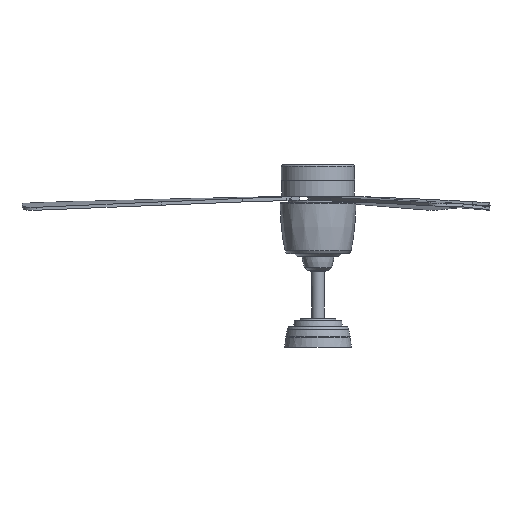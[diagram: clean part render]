
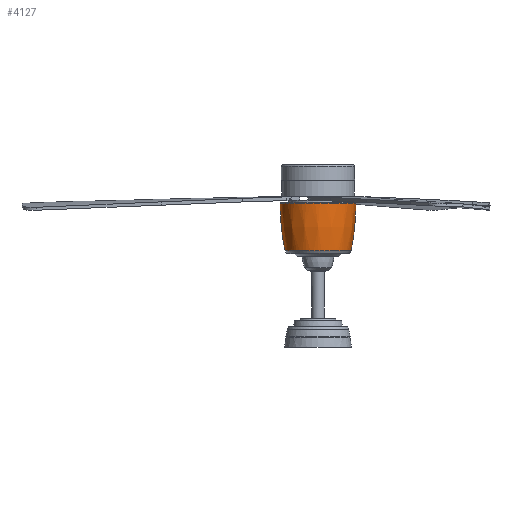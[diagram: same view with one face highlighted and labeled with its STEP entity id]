
A CAD part, left-side view. The second image highlights one B-rep face of the part: STEP entity #4127.
In plain terms, the highlighted free-form (B-spline) face has degree [2, 2] with [3, 5] control points.
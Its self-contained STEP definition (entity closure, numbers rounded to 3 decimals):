
#33=(
BOUNDED_SURFACE()
B_SPLINE_SURFACE(2,2,((#15556,#15557,#15558,#15559,#15560),(#15561,#15562,
#15563,#15564,#15565),(#15566,#15567,#15568,#15569,#15570)),
 .UNSPECIFIED.,.F.,.F.,.F.)
B_SPLINE_SURFACE_WITH_KNOTS((3,3),(3,2,3),(-0.21,0.006),
(-1.571,0.,1.571),.UNSPECIFIED.)
GEOMETRIC_REPRESENTATION_ITEM()
RATIONAL_B_SPLINE_SURFACE(((1.,0.707,1.,0.707,1.),
(0.994,0.703,0.994,0.703,
0.994),(1.,0.707,1.,0.707,1.)))
REPRESENTATION_ITEM('')
SURFACE()
);
#120=CIRCLE('',#4399,465.871);
#121=CIRCLE('',#4400,465.871);
#417=FACE_OUTER_BOUND('',#661,.T.);
#661=EDGE_LOOP('',(#3412,#3413,#3414,#3415));
#1341=B_SPLINE_CURVE_WITH_KNOTS('',3,(#15515,#15516,#15517,#15518,#15519,
#15520,#15521,#15522,#15523,#15524,#15525),.UNSPECIFIED.,.F.,.F.,(4,1,1,
1,1,1,1,1,4),(0.,0.125,0.25,0.375,0.5,0.625,0.75,0.875,1.),
 .UNSPECIFIED.);
#1343=B_SPLINE_CURVE_WITH_KNOTS('',3,(#15571,#15572,#15573,#15574,#15575,
#15576,#15577,#15578,#15579,#15580,#15581),.UNSPECIFIED.,.F.,.F.,(4,1,1,
1,1,1,1,1,4),(0.,0.125,0.25,0.375,0.5,0.625,0.75,0.875,1.),
 .UNSPECIFIED.);
#1774=VERTEX_POINT('',#15397);
#1775=VERTEX_POINT('',#15450);
#1776=VERTEX_POINT('',#15541);
#1777=VERTEX_POINT('',#15543);
#2351=EDGE_CURVE('',#1774,#1775,#1341,.T.);
#2352=EDGE_CURVE('',#1776,#1774,#120,.T.);
#2354=EDGE_CURVE('',#1775,#1777,#121,.T.);
#2355=EDGE_CURVE('',#1776,#1777,#1343,.T.);
#3412=ORIENTED_EDGE('',*,*,#2351,.T.);
#3413=ORIENTED_EDGE('',*,*,#2354,.T.);
#3414=ORIENTED_EDGE('',*,*,#2355,.F.);
#3415=ORIENTED_EDGE('',*,*,#2352,.T.);
#4127=ADVANCED_FACE('',(#417),#33,.F.);
#4399=AXIS2_PLACEMENT_3D('',#15542,#5062,#5063);
#4400=AXIS2_PLACEMENT_3D('',#15555,#5064,#5065);
#5062=DIRECTION('center_axis',(-1.,0.,0.));
#5063=DIRECTION('ref_axis',(0.,-1.,0.));
#5064=DIRECTION('center_axis',(-1.,0.,0.));
#5065=DIRECTION('ref_axis',(0.,1.,0.));
#15397=CARTESIAN_POINT('',(0.,-79.884,303.629));
#15450=CARTESIAN_POINT('',(0.,79.884,303.629));
#15515=CARTESIAN_POINT('Ctrl Pts',(0.,-79.884,
303.629));
#15516=CARTESIAN_POINT('Ctrl Pts',(-10.499,-79.989,
303.629));
#15517=CARTESIAN_POINT('Ctrl Pts',(-31.346,-75.676,
303.629));
#15518=CARTESIAN_POINT('Ctrl Pts',(-57.963,-57.97,
303.629));
#15519=CARTESIAN_POINT('Ctrl Pts',(-75.723,-31.363,
303.629));
#15520=CARTESIAN_POINT('Ctrl Pts',(-81.965,0.,
303.629));
#15521=CARTESIAN_POINT('Ctrl Pts',(-75.723,31.363,303.629));
#15522=CARTESIAN_POINT('Ctrl Pts',(-57.963,57.97,303.629));
#15523=CARTESIAN_POINT('Ctrl Pts',(-31.346,75.676,303.629));
#15524=CARTESIAN_POINT('Ctrl Pts',(-10.499,79.989,303.629));
#15525=CARTESIAN_POINT('Ctrl Pts',(0.,79.884,
303.629));
#15541=CARTESIAN_POINT('',(0.,-69.686,203.8));
#15542=CARTESIAN_POINT('Origin',(0.,385.978,
300.783));
#15543=CARTESIAN_POINT('',(0.,69.686,203.8));
#15555=CARTESIAN_POINT('Origin',(0.,-385.978,
300.783));
#15556=CARTESIAN_POINT('Ctrl Pts',(0.,69.685,
203.795));
#15557=CARTESIAN_POINT('Ctrl Pts',(-69.685,69.685,203.795));
#15558=CARTESIAN_POINT('Ctrl Pts',(-69.685,0.,
203.795));
#15559=CARTESIAN_POINT('Ctrl Pts',(-69.685,-69.685,203.795));
#15560=CARTESIAN_POINT('Ctrl Pts',(0.,-69.685,
203.795));
#15561=CARTESIAN_POINT('Ctrl Pts',(0.,80.192,
253.159));
#15562=CARTESIAN_POINT('Ctrl Pts',(-80.192,80.192,253.159));
#15563=CARTESIAN_POINT('Ctrl Pts',(-80.192,0.,
253.159));
#15564=CARTESIAN_POINT('Ctrl Pts',(-80.192,-80.192,
253.159));
#15565=CARTESIAN_POINT('Ctrl Pts',(0.,-80.192,
253.159));
#15566=CARTESIAN_POINT('Ctrl Pts',(0.,79.884,
303.629));
#15567=CARTESIAN_POINT('Ctrl Pts',(-79.884,79.884,303.629));
#15568=CARTESIAN_POINT('Ctrl Pts',(-79.884,0.,
303.629));
#15569=CARTESIAN_POINT('Ctrl Pts',(-79.884,-79.884,
303.629));
#15570=CARTESIAN_POINT('Ctrl Pts',(0.,-79.884,
303.629));
#15571=CARTESIAN_POINT('Ctrl Pts',(0.,-69.686,
203.8));
#15572=CARTESIAN_POINT('Ctrl Pts',(-9.159,-69.778,
203.8));
#15573=CARTESIAN_POINT('Ctrl Pts',(-27.344,-66.015,
203.8));
#15574=CARTESIAN_POINT('Ctrl Pts',(-50.563,-50.57,203.8));
#15575=CARTESIAN_POINT('Ctrl Pts',(-66.056,-27.359,203.8));
#15576=CARTESIAN_POINT('Ctrl Pts',(-71.501,0.,
203.8));
#15577=CARTESIAN_POINT('Ctrl Pts',(-66.056,27.359,203.8));
#15578=CARTESIAN_POINT('Ctrl Pts',(-50.563,50.57,203.8));
#15579=CARTESIAN_POINT('Ctrl Pts',(-27.344,66.015,203.8));
#15580=CARTESIAN_POINT('Ctrl Pts',(-9.159,69.778,203.8));
#15581=CARTESIAN_POINT('Ctrl Pts',(0.,69.686,
203.8));
